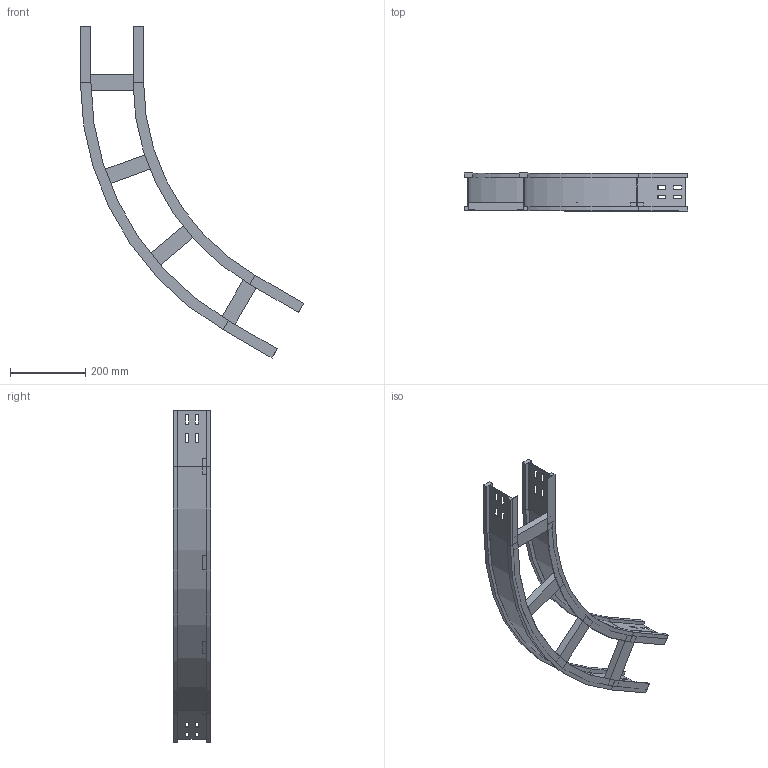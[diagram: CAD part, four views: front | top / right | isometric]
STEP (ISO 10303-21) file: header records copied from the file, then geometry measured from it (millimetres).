
FILE_DESCRIPTION (( 'STEP AP214' ), '1' );
FILE_NAME ('13S6D150.step', '2025-02-21T16:06:42', ( '' ), ( '' ), 'SwSTEP 2.0', 'SolidWorks 2023', '' );
FILE_SCHEMA (( 'AUTOMOTIVE_DESIGN' ));
Length unit declared in the file: millimetre
Products named in the file (4): 13S6D150; LONGH.ESTERNO 60°_H100_R600+150; LONGH.INTERNO 60°_H100_R600; TRAVERSINO_150
Assembly tree (6 placements, depth 2):
  13S6D150
    LONGH.INTERNO 60°_H100_R600
    LONGH.ESTERNO 60°_H100_R600+150
    TRAVERSINO_150  x4
Bounding box: 593.4 x 100 x 882.31 mm (x, y, z)
Volume: 1538653.3 mm3; surface area: 672254.9 mm2
Topology: 6 solids, 6 shells, 164 faces, 408 edges, 256 vertices
Faces by surface type: plane 152, cylinder 12
Entity records: 4485 total; most frequent: CARTESIAN_POINT 759, ORIENTED_EDGE 744, DIRECTION 706, EDGE_CURVE 372, LINE 348, VECTOR 348, VERTEX_POINT 232, AXIS2_PLACEMENT_3D 179
